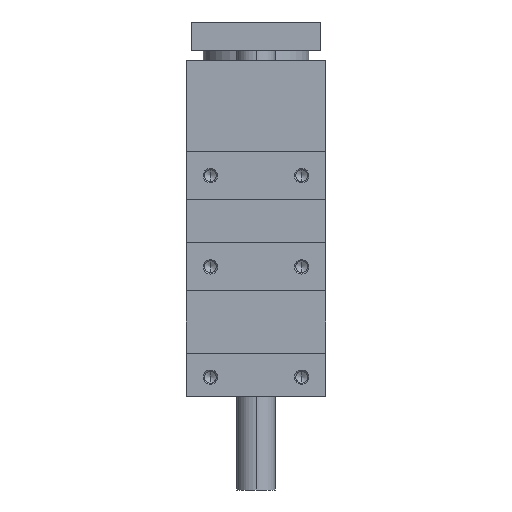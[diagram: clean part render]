
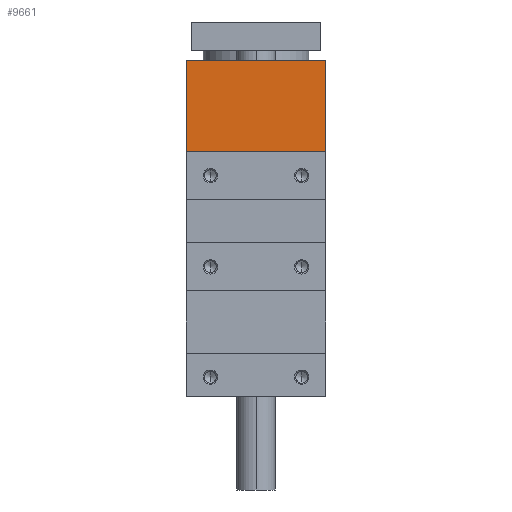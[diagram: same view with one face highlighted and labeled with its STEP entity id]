
A CAD part, left-side view. The second image highlights one B-rep face of the part: STEP entity #9661.
In plain terms, the highlighted planar face has unit normal (-1, 0, 0).
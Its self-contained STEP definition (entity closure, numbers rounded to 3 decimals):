
#231 = FACE_OUTER_BOUND ( 'NONE', #8764, .T. ) ;
#432 = VERTEX_POINT ( 'NONE', #6888 ) ;
#686 = ORIENTED_EDGE ( 'NONE', *, *, #4961, .T. ) ;
#856 = VERTEX_POINT ( 'NONE', #8567 ) ;
#863 = CARTESIAN_POINT ( 'NONE',  ( -57.2, -29., 0. ) ) ;
#942 = EDGE_CURVE ( 'NONE', #856, #432, #4860, .T. ) ;
#1020 = CARTESIAN_POINT ( 'NONE',  ( -57.2, 29., 0. ) ) ;
#1119 = DIRECTION ( 'NONE',  ( 1., 0., 0. ) ) ;
#2939 = VECTOR ( 'NONE', #5530, 1000. ) ;
#3363 = CARTESIAN_POINT ( 'NONE',  ( -57.2, 58., 59. ) ) ;
#4860 = LINE ( 'NONE', #3363, #6502 ) ;
#4862 = LINE ( 'NONE', #9705, #8794 ) ;
#4916 = AXIS2_PLACEMENT_3D ( 'NONE', #7411, #1119, #6694 ) ;
#4961 = EDGE_CURVE ( 'NONE', #856, #6431, #9072, .T. ) ;
#5192 = VECTOR ( 'NONE', #9898, 1000. ) ;
#5437 = VERTEX_POINT ( 'NONE', #5938 ) ;
#5483 = ORIENTED_EDGE ( 'NONE', *, *, #942, .F. ) ;
#5530 = DIRECTION ( 'NONE',  ( 0., 0., -1. ) ) ;
#5938 = CARTESIAN_POINT ( 'NONE',  ( -57.2, -29., 21. ) ) ;
#6431 = VERTEX_POINT ( 'NONE', #7353 ) ;
#6502 = VECTOR ( 'NONE', #8260, 1000. ) ;
#6694 = DIRECTION ( 'NONE',  ( 0., 1., 0. ) ) ;
#6888 = CARTESIAN_POINT ( 'NONE',  ( -57.2, -29., 59. ) ) ;
#7154 = LINE ( 'NONE', #863, #2939 ) ;
#7202 = ORIENTED_EDGE ( 'NONE', *, *, #9442, .F. ) ;
#7353 = CARTESIAN_POINT ( 'NONE',  ( -57.2, 29., 21. ) ) ;
#7411 = CARTESIAN_POINT ( 'NONE',  ( -57.2, 58., 21. ) ) ;
#8107 = DIRECTION ( 'NONE',  ( 0., -1., 0. ) ) ;
#8256 = EDGE_CURVE ( 'NONE', #6431, #5437, #4862, .T. ) ;
#8260 = DIRECTION ( 'NONE',  ( 0., -1., 0. ) ) ;
#8567 = CARTESIAN_POINT ( 'NONE',  ( -57.2, 29., 59. ) ) ;
#8764 = EDGE_LOOP ( 'NONE', ( #686, #9277, #7202, #5483 ) ) ;
#8794 = VECTOR ( 'NONE', #8107, 1000. ) ;
#8970 = PLANE ( 'NONE',  #4916 ) ;
#9072 = LINE ( 'NONE', #1020, #5192 ) ;
#9277 = ORIENTED_EDGE ( 'NONE', *, *, #8256, .T. ) ;
#9442 = EDGE_CURVE ( 'NONE', #432, #5437, #7154, .T. ) ;
#9661 = ADVANCED_FACE ( 'NONE', ( #231 ), #8970, .F. ) ;
#9705 = CARTESIAN_POINT ( 'NONE',  ( -57.2, 58., 21. ) ) ;
#9898 = DIRECTION ( 'NONE',  ( 0., 0., -1. ) ) ;
